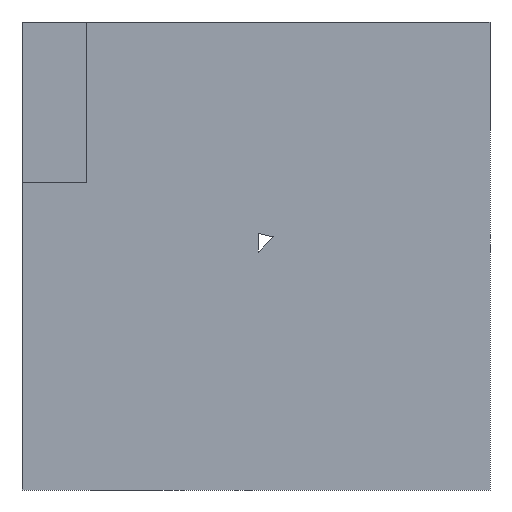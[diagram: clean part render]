
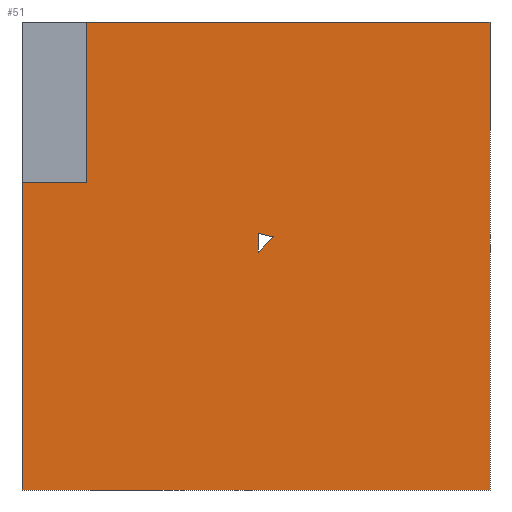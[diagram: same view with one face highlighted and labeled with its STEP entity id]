
A CAD part, front view. The second image highlights one B-rep face of the part: STEP entity #51.
In plain terms, the highlighted planar face has unit normal (0, -1, 0).
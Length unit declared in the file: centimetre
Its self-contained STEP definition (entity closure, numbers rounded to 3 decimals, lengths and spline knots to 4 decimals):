
#2 = DIRECTION ( 'NONE',  ( 0., 0., -1. ) ) ;
#36 = DIRECTION ( 'NONE',  ( 1., 0., 0. ) ) ;
#41 = LINE ( 'NONE', #259, #606 ) ;
#46 = CARTESIAN_POINT ( 'NONE',  ( 137.3311, 0., 657.7949 ) ) ;
#49 = VERTEX_POINT ( 'NONE', #723 ) ;
#50 = DIRECTION ( 'NONE',  ( 1., 0., 0. ) ) ;
#51 = ADVANCED_FACE ( 'NONE', ( #242, #670 ), #734, .F. ) ;
#68 = VECTOR ( 'NONE', #36, 100. ) ;
#70 = DIRECTION ( 'NONE',  ( 0., 0., -1. ) ) ;
#74 = CARTESIAN_POINT ( 'NONE',  ( 0., 0., 657.7949 ) ) ;
#79 = EDGE_CURVE ( 'NONE', #818, #494, #41, .T. ) ;
#102 = ORIENTED_EDGE ( 'NONE', *, *, #628, .F. ) ;
#121 = ORIENTED_EDGE ( 'NONE', *, *, #798, .F. ) ;
#128 = VERTEX_POINT ( 'NONE', #315 ) ;
#136 = CARTESIAN_POINT ( 'NONE',  ( 0., 0., 1000. ) ) ;
#145 = CARTESIAN_POINT ( 'NONE',  ( 536.9407, 0., 540.796 ) ) ;
#153 = CARTESIAN_POINT ( 'NONE',  ( 1000., 0., 1000. ) ) ;
#168 = DIRECTION ( 'NONE',  ( 0., 1., 0. ) ) ;
#176 = EDGE_LOOP ( 'NONE', ( #102, #221, #792, #524, #605, #121 ) ) ;
#210 = CARTESIAN_POINT ( 'NONE',  ( 0., 0., 0. ) ) ;
#212 = CARTESIAN_POINT ( 'NONE',  ( 0., 0., 1000. ) ) ;
#221 = ORIENTED_EDGE ( 'NONE', *, *, #294, .F. ) ;
#229 = VERTEX_POINT ( 'NONE', #46 ) ;
#242 = FACE_BOUND ( 'NONE', #643, .T. ) ;
#259 = CARTESIAN_POINT ( 'NONE',  ( 0., 0., 0. ) ) ;
#294 = EDGE_CURVE ( 'NONE', #229, #128, #688, .T. ) ;
#304 = CARTESIAN_POINT ( 'NONE',  ( 1000., 0., 0. ) ) ;
#315 = CARTESIAN_POINT ( 'NONE',  ( 137.3311, 0., 1000. ) ) ;
#325 = LINE ( 'NONE', #136, #411 ) ;
#340 = CARTESIAN_POINT ( 'NONE',  ( 504.6134, 0., 548.0514 ) ) ;
#341 = CARTESIAN_POINT ( 'NONE',  ( 137.3311, 0., 657.7949 ) ) ;
#342 = EDGE_CURVE ( 'NONE', #724, #818, #710, .T. ) ;
#345 = CARTESIAN_POINT ( 'NONE',  ( 536.9407, 0., 540.796 ) ) ;
#355 = LINE ( 'NONE', #631, #68 ) ;
#383 = DIRECTION ( 'NONE',  ( 0.707, 0., 0.707 ) ) ;
#395 = CARTESIAN_POINT ( 'NONE',  ( 504.6134, 0., 508.4687 ) ) ;
#411 = VECTOR ( 'NONE', #50, 100. ) ;
#423 = DIRECTION ( 'NONE',  ( -0.976, 0., 0.219 ) ) ;
#439 = CARTESIAN_POINT ( 'NONE',  ( 0., 0., 1000. ) ) ;
#440 = EDGE_CURVE ( 'NONE', #724, #229, #355, .T. ) ;
#449 = DIRECTION ( 'NONE',  ( 0., 0., 1. ) ) ;
#452 = EDGE_CURVE ( 'NONE', #543, #748, #860, .T. ) ;
#489 = LINE ( 'NONE', #145, #667 ) ;
#492 = VECTOR ( 'NONE', #615, 100. ) ;
#494 = VERTEX_POINT ( 'NONE', #304 ) ;
#513 = DIRECTION ( 'NONE',  ( 1., 0., 0. ) ) ;
#524 = ORIENTED_EDGE ( 'NONE', *, *, #342, .T. ) ;
#543 = VERTEX_POINT ( 'NONE', #395 ) ;
#551 = DIRECTION ( 'NONE',  ( 0., 0., -1. ) ) ;
#562 = VECTOR ( 'NONE', #2, 100. ) ;
#605 = ORIENTED_EDGE ( 'NONE', *, *, #79, .T. ) ;
#606 = VECTOR ( 'NONE', #513, 100. ) ;
#609 = VECTOR ( 'NONE', #551, 100. ) ;
#612 = VERTEX_POINT ( 'NONE', #340 ) ;
#615 = DIRECTION ( 'NONE',  ( 0., 0., 1. ) ) ;
#628 = EDGE_CURVE ( 'NONE', #128, #49, #325, .T. ) ;
#631 = CARTESIAN_POINT ( 'NONE',  ( 0., 0., 657.7949 ) ) ;
#632 = ORIENTED_EDGE ( 'NONE', *, *, #839, .F. ) ;
#643 = EDGE_LOOP ( 'NONE', ( #776, #632, #697 ) ) ;
#648 = AXIS2_PLACEMENT_3D ( 'NONE', #439, #168, #449 ) ;
#667 = VECTOR ( 'NONE', #423, 100. ) ;
#670 = FACE_OUTER_BOUND ( 'NONE', #176, .T. ) ;
#688 = LINE ( 'NONE', #341, #492 ) ;
#691 = LINE ( 'NONE', #843, #609 ) ;
#697 = ORIENTED_EDGE ( 'NONE', *, *, #452, .F. ) ;
#710 = LINE ( 'NONE', #212, #760 ) ;
#721 = CARTESIAN_POINT ( 'NONE',  ( 504.6134, 0., 508.4687 ) ) ;
#723 = CARTESIAN_POINT ( 'NONE',  ( 1000., 0., 1000. ) ) ;
#724 = VERTEX_POINT ( 'NONE', #74 ) ;
#734 = PLANE ( 'NONE',  #648 ) ;
#748 = VERTEX_POINT ( 'NONE', #345 ) ;
#760 = VECTOR ( 'NONE', #70, 100. ) ;
#776 = ORIENTED_EDGE ( 'NONE', *, *, #830, .F. ) ;
#784 = LINE ( 'NONE', #153, #562 ) ;
#792 = ORIENTED_EDGE ( 'NONE', *, *, #440, .F. ) ;
#798 = EDGE_CURVE ( 'NONE', #49, #494, #784, .T. ) ;
#818 = VERTEX_POINT ( 'NONE', #210 ) ;
#830 = EDGE_CURVE ( 'NONE', #612, #543, #691, .T. ) ;
#839 = EDGE_CURVE ( 'NONE', #748, #612, #489, .T. ) ;
#843 = CARTESIAN_POINT ( 'NONE',  ( 504.6134, 0., 548.0514 ) ) ;
#860 = LINE ( 'NONE', #721, #895 ) ;
#895 = VECTOR ( 'NONE', #383, 100. ) ;
